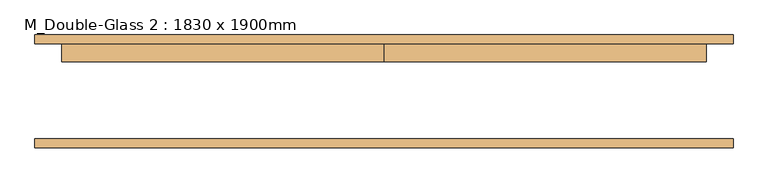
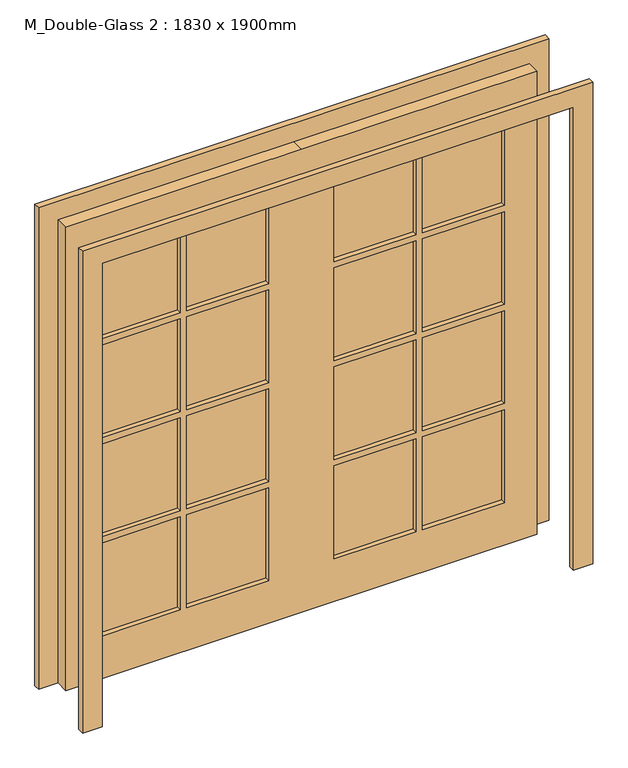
"""IFC4 building model written with IfcOpenShell, lengths in millimetres: door geometry, M_Double-Glass 2 : 1830 x 1900mm."""

from ifc_helpers import new_model, si_unit, frame, origin, place, context, project, spatial, polyline, outline, extrude, source, transform, mapped, element, save


def m_double_glass_2_1830_x_1900mm_f983d492(model_context):
    return source(origin(), model_context, "Body", "SweptSolid", [
        extrude(outline(polyline([(470.0, 115.95), (788.0, 115.95), (788.0, 103.25), (470.0, 103.25), (470.0, 115.95)])), frame((0.0, 0.0, 1393.75), z_axis=(0.0, 0.0, 1.0), x_axis=(1.0, 0.0, 0.0)), (0.0, 0.0, 1.0), 381.25),
        extrude(outline(polyline([(127.0, 115.95), (445.0, 115.95), (445.0, 103.25), (127.0, 103.25), (127.0, 115.95)])), frame((0.0, 0.0, 1393.75), z_axis=(0.0, 0.0, 1.0), x_axis=(1.0, 0.0, 0.0)), (0.0, 0.0, 1.0), 381.25),
        extrude(outline(polyline([(-445.0, 115.95), (-127.0, 115.95), (-127.0, 103.25), (-445.0, 103.25), (-445.0, 115.95)])), frame((0.0, 0.0, 1393.75), z_axis=(0.0, 0.0, 1.0), x_axis=(1.0, 0.0, 0.0)), (0.0, 0.0, 1.0), 381.25),
        extrude(outline(polyline([(-788.0, 115.95), (-470.0, 115.95), (-470.0, 103.25), (-788.0, 103.25), (-788.0, 115.95)])), frame((0.0, 0.0, 1393.75), z_axis=(0.0, 0.0, 1.0), x_axis=(1.0, 0.0, 0.0)), (0.0, 0.0, 1.0), 381.25),
        extrude(outline(polyline([(-788.0, 115.95), (-470.0, 115.95), (-470.0, 103.25), (-788.0, 103.25), (-788.0, 115.95)])), frame((0.0, 0.0, 987.5), z_axis=(0.0, 0.0, 1.0), x_axis=(1.0, 0.0, 0.0)), (0.0, 0.0, 1.0), 381.25),
        extrude(outline(polyline([(-445.0, 115.95), (-127.0, 115.95), (-127.0, 103.25), (-445.0, 103.25), (-445.0, 115.95)])), frame((0.0, 0.0, 987.5), z_axis=(0.0, 0.0, 1.0), x_axis=(1.0, 0.0, 0.0)), (0.0, 0.0, 1.0), 381.25),
        extrude(outline(polyline([(127.0, 115.95), (445.0, 115.95), (445.0, 103.25), (127.0, 103.25), (127.0, 115.95)])), frame((0.0, 0.0, 987.5), z_axis=(0.0, 0.0, 1.0), x_axis=(1.0, 0.0, 0.0)), (0.0, 0.0, 1.0), 381.25),
        extrude(outline(polyline([(470.0, 115.95), (788.0, 115.95), (788.0, 103.25), (470.0, 103.25), (470.0, 115.95)])), frame((0.0, 0.0, 987.5), z_axis=(0.0, 0.0, 1.0), x_axis=(1.0, 0.0, 0.0)), (0.0, 0.0, 1.0), 381.25),
        extrude(outline(polyline([(470.0, 115.95), (788.0, 115.95), (788.0, 103.25), (470.0, 103.25), (470.0, 115.95)])), frame((0.0, 0.0, 581.25), z_axis=(0.0, 0.0, 1.0), x_axis=(1.0, 0.0, 0.0)), (0.0, 0.0, 1.0), 381.25),
        extrude(outline(polyline([(127.0, 115.95), (445.0, 115.95), (445.0, 103.25), (127.0, 103.25), (127.0, 115.95)])), frame((0.0, 0.0, 581.25), z_axis=(0.0, 0.0, 1.0), x_axis=(1.0, 0.0, 0.0)), (0.0, 0.0, 1.0), 381.25),
        extrude(outline(polyline([(-445.0, 115.95), (-127.0, 115.95), (-127.0, 103.25), (-445.0, 103.25), (-445.0, 115.95)])), frame((0.0, 0.0, 581.25), z_axis=(0.0, 0.0, 1.0), x_axis=(1.0, 0.0, 0.0)), (0.0, 0.0, 1.0), 381.25),
        extrude(outline(polyline([(-788.0, 115.95), (-470.0, 115.95), (-470.0, 103.25), (-788.0, 103.25), (-788.0, 115.95)])), frame((0.0, 0.0, 581.25), z_axis=(0.0, 0.0, 1.0), x_axis=(1.0, 0.0, 0.0)), (0.0, 0.0, 1.0), 381.25),
        extrude(outline(polyline([(470.0, 115.95), (788.0, 115.95), (788.0, 103.25), (470.0, 103.25), (470.0, 115.95)])), frame((0.0, 0.0, 175.0), z_axis=(0.0, 0.0, 1.0), x_axis=(1.0, 0.0, 0.0)), (0.0, 0.0, 1.0), 381.25),
        extrude(outline(polyline([(127.0, 115.95), (445.0, 115.95), (445.0, 103.25), (127.0, 103.25), (127.0, 115.95)])), frame((0.0, 0.0, 175.0), z_axis=(0.0, 0.0, 1.0), x_axis=(1.0, 0.0, 0.0)), (0.0, 0.0, 1.0), 381.25),
        extrude(outline(polyline([(-445.0, 115.95), (-127.0, 115.95), (-127.0, 103.25), (-445.0, 103.25), (-445.0, 115.95)])), frame((0.0, 0.0, 175.0), z_axis=(0.0, 0.0, 1.0), x_axis=(1.0, 0.0, 0.0)), (0.0, 0.0, 1.0), 381.25),
        extrude(outline(polyline([(-788.0, 115.95), (-470.0, 115.95), (-470.0, 103.25), (-788.0, 103.25), (-788.0, 115.95)])), frame((0.0, 0.0, 175.0), z_axis=(0.0, 0.0, 1.0), x_axis=(1.0, 0.0, 0.0)), (0.0, 0.0, 1.0), 381.25),
        extrude(outline(polyline([(1900.0, 0.0), (1900.0, -915.0), (0.0, -915.0), (0.0, 0.0), (0.0, 915.0), (1900.0, 915.0), (1900.0, 0.0)]), holes=[polyline([(1775.0, 470.0), (1775.0, 788.0), (1393.75, 788.0), (1393.75, 470.0), (1775.0, 470.0)]), polyline([(1775.0, 127.0), (1775.0, 445.0), (1393.75, 445.0), (1393.75, 127.0), (1775.0, 127.0)]), polyline([(1368.75, 470.0), (1368.75, 788.0), (987.5, 788.0), (987.5, 470.0), (1368.75, 470.0)]), polyline([(1368.75, 127.0), (1368.75, 445.0), (987.5, 445.0), (987.5, 127.0), (1368.75, 127.0)]), polyline([(962.5, 470.0), (962.5, 788.0), (581.25, 788.0), (581.25, 470.0), (962.5, 470.0)]), polyline([(962.5, 127.0), (962.5, 445.0), (581.25, 445.0), (581.25, 127.0), (962.5, 127.0)]), polyline([(556.25, 470.0), (556.25, 788.0), (175.0, 788.0), (175.0, 470.0), (556.25, 470.0)]), polyline([(556.25, 127.0), (556.25, 445.0), (175.0, 445.0), (175.0, 127.0), (556.25, 127.0)]), polyline([(1775.0, -445.0), (1775.0, -127.0), (1393.75, -127.0), (1393.75, -445.0), (1775.0, -445.0)]), polyline([(1368.75, -445.0), (1368.75, -127.0), (987.5, -127.0), (987.5, -445.0), (1368.75, -445.0)]), polyline([(1368.75, -470.0), (987.5, -470.0), (987.5, -788.0), (1368.75, -788.0), (1368.75, -470.0)]), polyline([(962.5, -445.0), (962.5, -127.0), (581.25, -127.0), (581.25, -445.0), (962.5, -445.0)]), polyline([(962.5, -470.0), (581.25, -470.0), (581.25, -788.0), (962.5, -788.0), (962.5, -470.0)]), polyline([(556.25, -445.0), (556.25, -127.0), (175.0, -127.0), (175.0, -445.0), (556.25, -445.0)]), polyline([(556.25, -788.0), (556.25, -470.0), (175.0, -470.0), (175.0, -788.0), (556.25, -788.0)]), polyline([(1393.75, -470.0), (1393.75, -788.0), (1775.0, -788.0), (1775.0, -470.0), (1393.75, -470.0)])]), frame((0.0, 84.0, 0.0), z_axis=(0.0, 1.0, 0.0), x_axis=(0.0, 0.0, 1.0)), (0.0, 0.0, 1.0), 51.0),
        extrude(outline(polyline([(1900.0, -915.0), (1900.0, 915.0), (0.0, 915.0), (0.0, 991.0), (1976.0, 991.0), (1976.0, -991.0), (0.0, -991.0), (0.0, -915.0), (1900.0, -915.0)])), frame((0.0, -160.0, 0.0), z_axis=(0.0, 1.0, 0.0), x_axis=(0.0, 0.0, 1.0)), (0.0, 0.0, 1.0), 25.0),
        extrude(outline(polyline([(1900.0, -915.0), (1900.0, 915.0), (0.0, 915.0), (0.0, 991.0), (1976.0, 991.0), (1976.0, -991.0), (0.0, -991.0), (0.0, -915.0), (1900.0, -915.0)])), frame((0.0, 135.0, 0.0), z_axis=(0.0, 1.0, 0.0), x_axis=(0.0, 0.0, 1.0)), (0.0, 0.0, 1.0), 25.0),
    ])


if __name__ == "__main__":
    model = new_model("IFC4")
    model_context = context("Model", 3, world=origin())
    ifc_project = project(units=[si_unit("LENGTHUNIT", "METRE", prefix="MILLI")], contexts=[model_context])
    site = spatial("IfcSite", under=ifc_project)
    building = spatial("IfcBuilding", under=site)
    placement = place(None, origin())
    m_double_glass_2_1830_x_1900mm_shape = m_double_glass_2_1830_x_1900mm_f983d492(model_context)
    element("IfcDoor", 1, ObjectType="M_Double-Glass 2 : 1830 x 1900mm", at=placement, inside=building, context=model_context, shape_type="MappedRepresentation", body=[
        mapped(m_double_glass_2_1830_x_1900mm_shape, transform((0.0, 0.0, 0.0), x_axis=(1.0, 0.0, 0.0), y_axis=(0.0, 1.0, 0.0), z_axis=(0.0, 0.0, 1.0))),
    ])
    save(model, "model.ifc")
